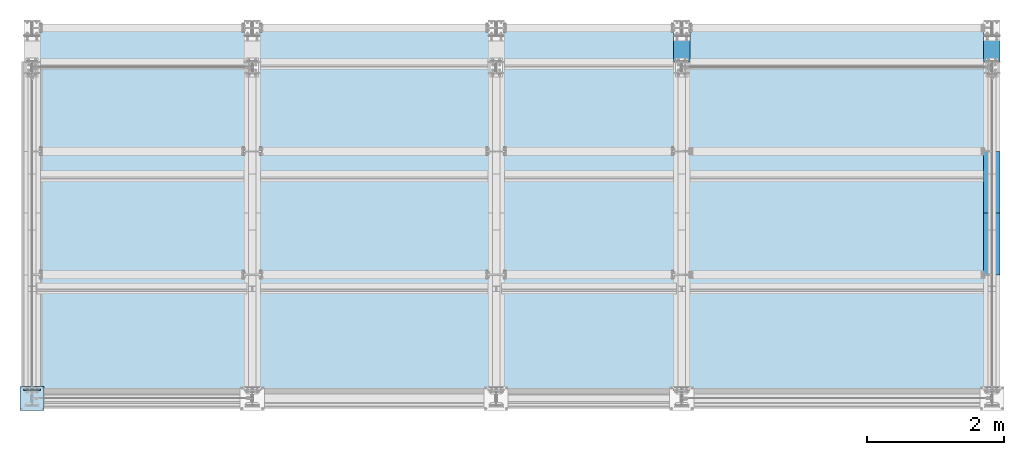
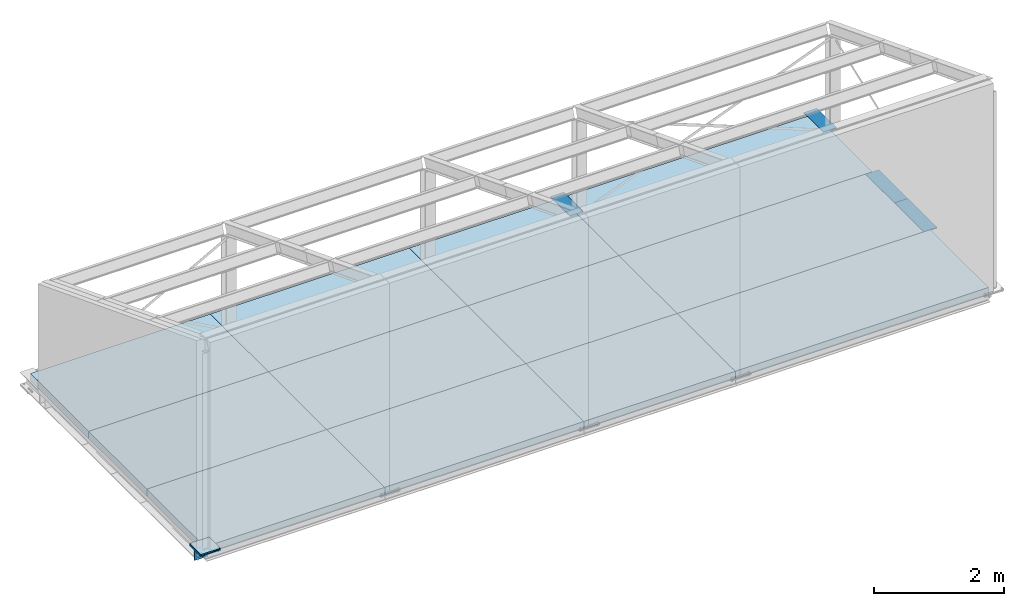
# One storey, part 3 of 66: 12 slabs, 4 beams, 3 plates.
"""IFC4 building model written with IfcOpenShell, lengths in metres."""

import ifcopenshell
import ifcopenshell.guid

model = None  # the IFC model being written
_history = None  # IfcOwnerHistory: only IFC2X3 demands one
_inside = {}  # id of a spatial element -> (the spatial element, [elements in it])
_under = {}  # id of a project, library or spatial element -> (it, [spatial elements below it])
_declared = {}  # id of a project -> (the project, [libraries it declares])
_typed = {}  # id of a type object -> (the type object, [elements of that type])
_made_of = {}  # id of a material, layer set ... -> (it, [elements and type objects made of it])


def new_model(schema):
    """Start an empty IFC model of exactly this schema.

    Asked for "IFC4X3", IfcOpenShell would pick the latest addendum, in which some entities
    have other attributes; the version numbers below select the first issue.
    IFC2X3 requires an IfcOwnerHistory on every rooted entity: one is made here for all.
    """
    global model, _history
    if schema == "IFC4X3":
        model = ifcopenshell.file(schema_version=(4, 3, 0, 0))
    else:
        model = ifcopenshell.file(schema=schema)
    _inside.clear()
    _under.clear()
    _declared.clear()
    _typed.clear()
    _made_of.clear()
    _history = None
    if model.schema == "IFC2X3":
        org = make("IfcOrganization", Name="unknown")
        user = make(
            "IfcPersonAndOrganization",
            ThePerson=make("IfcPerson", FamilyName="unknown"),
            TheOrganization=org,
        )
        app = make(
            "IfcApplication",
            ApplicationDeveloper=org,
            Version="unknown",
            ApplicationFullName="unknown",
            ApplicationIdentifier="unknown",
        )
        _history = make(
            "IfcOwnerHistory",
            OwningUser=user,
            OwningApplication=app,
            ChangeAction="ADDED",
            CreationDate=0,
        )
    return model


def make(cls, **values):
    """One entity of the class cls with the attributes given. An attribute that is None is left unset."""
    return model.create_entity(
        cls, **{name: value for name, value in values.items() if value is not None}
    )


def rooted(cls, **values):
    """An entity with a GlobalId (a new one), such as an element, a storey or a relation."""
    return make(cls, GlobalId=ifcopenshell.guid.new(), OwnerHistory=_history, **values)


def si_unit(unit_type, name, prefix=None):
    """IfcSIUnit, for example si_unit("LENGTHUNIT", "METRE", prefix="MILLI")."""
    return make("IfcSIUnit", UnitType=unit_type, Prefix=prefix, Name=name)


def assignment(units):
    """IfcUnitAssignment: the units of a project."""
    return None if units is None else make("IfcUnitAssignment", Units=units)


def point(xyz):
    """IfcCartesianPoint."""
    return None if xyz is None else make("IfcCartesianPoint", Coordinates=xyz)


def direction(xyz):
    """IfcDirection."""
    return None if xyz is None else make("IfcDirection", DirectionRatios=xyz)


def frame(location, z_axis=None, x_axis=None):
    """IfcAxis2Placement3D, a coordinate frame: its origin and axes. An axis left out is left unset."""
    return make(
        "IfcAxis2Placement3D",
        Location=point(location),
        Axis=direction(z_axis),
        RefDirection=direction(x_axis),
    )


def frame_2d(location, x_axis=None):
    """IfcAxis2Placement2D, a coordinate frame in the plane: its origin and x axis."""
    return make(
        "IfcAxis2Placement2D", Location=point(location), RefDirection=direction(x_axis)
    )


def origin_with_axes():
    """The frame at (0, 0, 0) with the z axis (0, 0, 1) and the x axis (1, 0, 0) written out."""
    return frame((0.0, 0.0, 0.0), z_axis=(0.0, 0.0, 1.0), x_axis=(1.0, 0.0, 0.0))


def origin_2d_with_axis():
    """The frame at (0, 0) in the plane with the x axis (1, 0) written out."""
    return frame_2d((0.0, 0.0), x_axis=(1.0, 0.0))


def place(relative_to, where):
    """IfcLocalPlacement: puts the frame where relative to a parent placement (None: the world)."""
    return make(
        "IfcLocalPlacement", PlacementRelTo=relative_to, RelativePlacement=where
    )


def context(
    kind, dimensions, precision=None, world=None, true_north=None, identifier=None
):
    """IfcGeometricRepresentationContext, for example the 3D "Model" context."""
    return make(
        "IfcGeometricRepresentationContext",
        ContextIdentifier=identifier,
        ContextType=kind,
        CoordinateSpaceDimension=dimensions,
        Precision=precision,
        WorldCoordinateSystem=world,
        TrueNorth=true_north,
    )


def project(units=None, contexts=None):
    """IfcProject with its units and contexts."""
    return rooted(
        "IfcProject",
        Name="project",
        RepresentationContexts=contexts,
        UnitsInContext=assignment(units),
    )


def spatial(cls, under=None, at=None, **own):
    """A site, building, storey or space (cls), placed at a placement, below another one or the project."""
    s = rooted(cls, ObjectPlacement=at, **own)
    if under is not None:
        _under.setdefault(under.id(), (under, []))[1].append(s)
    return s


def polyline(points):
    """IfcPolyline through the points."""
    return make("IfcPolyline", Points=[point(p) for p in points])


def profile(cls, at=None, kind="AREA", **sizes):
    """A parametric profile (cls). Its sizes go by their IFC names, for example OverallWidth=200.0."""
    return make(cls, ProfileType=kind, Position=at, **sizes)


def i_section(**sizes):
    """IfcIShapeProfileDef."""
    return profile("IfcIShapeProfileDef", **sizes)


def outline(outer, holes=None, kind="AREA"):
    """IfcArbitraryClosedProfileDef: a profile drawn as a closed curve; with holes, ...WithVoids."""
    if holes is None:
        return make("IfcArbitraryClosedProfileDef", ProfileType=kind, OuterCurve=outer)
    return make(
        "IfcArbitraryProfileDefWithVoids",
        ProfileType=kind,
        OuterCurve=outer,
        InnerCurves=holes,
    )


def extrude(swept, where, along, depth):
    """IfcExtrudedAreaSolid: the profile swept, set in the frame where, extruded along a direction by depth."""
    return make(
        "IfcExtrudedAreaSolid",
        SweptArea=swept,
        Position=where,
        ExtrudedDirection=direction(along),
        Depth=depth,
    )


def shape(context_of_items, identifier, shape_type, items):
    """IfcShapeRepresentation: the items that make up one representation, for example the "Body"."""
    return make(
        "IfcShapeRepresentation",
        ContextOfItems=context_of_items,
        RepresentationIdentifier=identifier,
        RepresentationType=shape_type,
        Items=items,
    )


def material(Name=None, Category=None):
    """IfcMaterial."""
    return make("IfcMaterial", Name=Name, Category=Category)


def material_profile(
    of_material, cross_section, Name=None, Category=None, Priority=None
):
    """IfcMaterialProfile: a cross section and its material."""
    return make(
        "IfcMaterialProfile",
        Name=Name,
        Material=of_material,
        Profile=cross_section,
        Priority=Priority,
        Category=Category,
    )


def profile_set(profiles, Name=None, composite=None):
    """IfcMaterialProfileSet."""
    return make(
        "IfcMaterialProfileSet",
        Name=Name,
        MaterialProfiles=profiles,
        CompositeProfile=composite,
    )


def profile_usage(for_profile_set, cardinal=None, extent=None):
    """IfcMaterialProfileSetUsage: how a profile set lies along its element."""
    return make(
        "IfcMaterialProfileSetUsage",
        ForProfileSet=for_profile_set,
        CardinalPoint=cardinal,
        ReferenceExtent=extent,
    )


def made_of(thing, what):
    """Note that an element or type object is made of a material, layer set ...; save() writes the relation."""
    if what is not None:
        _made_of.setdefault(what.id(), (what, []))[1].append(thing)
    return thing


def type_object(cls, material=None, **own):
    """A type object (cls), such as IfcWallType, which elements share."""
    return made_of(rooted(cls, **own), material)


def element(
    cls,
    number,
    at=None,
    inside=None,
    cuts=None,
    type_object=None,
    material=None,
    context=None,
    identifier="Body",
    shape_type=None,
    held_by="IfcProductDefinitionShape",
    body=None,
    shapes=None,
    **own,
):
    """One element of the class cls, such as IfcWall. Its Tag is "e" and its number.

    at: its placement. inside: the storey or other place that contains it. cuts: it is an
    opening in that element (IfcRelVoidsElement). A single representation is given by context,
    identifier, shape_type and body (its items); several are given by shapes. held_by: the class
    of the entity that holds the representations. save() writes the other relations.
    """
    e = rooted(cls, Tag="e%d" % number, ObjectPlacement=at, **own)
    if body is not None:
        shapes = [shape(context, identifier, shape_type, body)]
    if shapes is not None:
        e.Representation = make(held_by, Representations=shapes)
    if inside is not None:
        _inside.setdefault(inside.id(), (inside, []))[1].append(e)
    if cuts is not None:
        rooted(
            "IfcRelVoidsElement", RelatingBuildingElement=cuts, RelatedOpeningElement=e
        )
    if type_object is not None:
        _typed.setdefault(type_object.id(), (type_object, []))[1].append(e)
    return made_of(e, material)


def aggregate(whole, parts):
    """IfcRelAggregates: a whole, such as a stair, and the parts it consists of."""
    return rooted("IfcRelAggregates", RelatingObject=whole, RelatedObjects=parts)


def save(model, path):
    """Write the relations noted so far, then the file.

    IfcRelAggregates (storeys below a building ...), IfcRelContainedInSpatialStructure (elements
    in a storey), IfcRelDefinesByType, IfcRelAssociatesMaterial and IfcRelDeclares: one each for
    every whole, place, type object, material and project.
    """
    for whole, parts in _under.values():
        aggregate(whole, parts)
    for where, things in _inside.values():
        rooted(
            "IfcRelContainedInSpatialStructure",
            RelatedElements=things,
            RelatingStructure=where,
        )
    for kind, things in _typed.values():
        rooted("IfcRelDefinesByType", RelatedObjects=things, RelatingType=kind)
    for what, things in _made_of.values():
        rooted("IfcRelAssociatesMaterial", RelatedObjects=things, RelatingMaterial=what)
    for by, libraries in _declared.values():
        rooted("IfcRelDeclares", RelatingContext=by, RelatedDefinitions=libraries)
    model.write(path)


model = new_model("IFC4")

# Units and contexts
model_context = context("Model", 3, precision=1e-05, world=origin_with_axes())
ifc_project = project(units=[si_unit("LENGTHUNIT", "METRE"), si_unit("AREAUNIT", "SQUARE_METRE"), si_unit("VOLUMEUNIT", "CUBIC_METRE"), si_unit("MASSUNIT", "GRAM", prefix="KILO"), si_unit("TIMEUNIT", "SECOND"), si_unit("PLANEANGLEUNIT", "RADIAN"), si_unit("SOLIDANGLEUNIT", "STERADIAN"), si_unit("THERMODYNAMICTEMPERATUREUNIT", "DEGREE_CELSIUS")], contexts=[model_context])

# Site, building, storey
placement_1 = place(None, origin_with_axes())
site = spatial("IfcSite", under=ifc_project, at=placement_1, Name="Italia", CompositionType="ELEMENT")
building = spatial("IfcBuilding", under=site, at=placement_1, Name="Uffici", CompositionType="ELEMENT")
storey_placement = place(None, frame((0.0, 0.0, 3.299999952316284), z_axis=(0.0, 0.0, 1.0), x_axis=(1.0, 0.0, 0.0)))
storey = spatial("IfcBuildingStorey", under=building, at=storey_placement, Name="Storey 1", CompositionType="ELEMENT", Elevation=3.299999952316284)

# Beams
ifc_material_1 = material(Name="Acciaio", Category="Acciaio")
ifc_material_profile = material_profile(ifc_material_1, i_section(OverallWidth=0.24, OverallDepth=0.23, WebThickness=0.0075, FlangeThickness=0.012, FilletRadius=0.021, at=frame_2d((0.0, 0.0), x_axis=(0.0, -0.999999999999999))), Name="1 HEA240")
ifc_profile_set = profile_set([ifc_material_profile])
ifc_profile_usage_1 = profile_usage(ifc_profile_set, cardinal=2)
beam_type_1 = type_object("IfcBeamType", Name="2 HEB240", PredefinedType="BEAM", material=ifc_profile_usage_1)
placement_2 = place(placement_1, origin_with_axes())
beam_1_placement = place(placement_2, origin_with_axes())
element("IfcBeam", 1, at=beam_1_placement, inside=storey, type_object=beam_type_1, Name="112", context=model_context, shape_type="SweptSolid", body=[
    extrude(i_section(OverallWidth=0.24, OverallDepth=0.24, WebThickness=0.01, FlangeThickness=0.017, FilletRadius=0.021, at=origin_2d_with_axis()), frame((13.97, 4.9, 3.18), z_axis=(0.0, 1.0, 0.0), x_axis=(-1.0, 0.0, 0.0)), (0.0, 0.0, 1.0), 0.605),
])
ifc_profile_usage_2 = profile_usage(ifc_profile_set, cardinal=2)
beam_type_2 = type_object("IfcBeamType", Name="2 HEB240", PredefinedType="BEAM", material=ifc_profile_usage_2)
beam_2_placement = place(placement_2, origin_with_axes())
element("IfcBeam", 2, at=beam_2_placement, inside=storey, type_object=beam_type_2, Name="111", context=model_context, shape_type="SweptSolid", body=[
    extrude(i_section(OverallWidth=0.24, OverallDepth=0.24, WebThickness=0.01, FlangeThickness=0.017, FilletRadius=0.021, at=origin_2d_with_axis()), frame((9.455, 4.9, 3.18), z_axis=(0.0, 1.0, 0.0), x_axis=(-1.0, 0.0, 0.0)), (0.0, 0.0, 1.0), 0.605),
])
ifc_profile_usage_3 = profile_usage(ifc_profile_set, cardinal=2)
beam_type_3 = type_object("IfcBeamType", Name="2 HEB240", PredefinedType="BEAM", material=ifc_profile_usage_3)
beam_3_placement = place(placement_2, origin_with_axes())
element("IfcBeam", 3, at=beam_3_placement, inside=storey, type_object=beam_type_3, Name="112", context=model_context, shape_type="SweptSolid", body=[
    extrude(i_section(OverallWidth=0.24, OverallDepth=0.24, WebThickness=0.01, FlangeThickness=0.017, FilletRadius=0.021, at=origin_2d_with_axis()), frame((13.97, 2.695, 3.18), z_axis=(0.0, 1.0, 0.0), x_axis=(-1.0, 0.0, 0.0)), (0.0, 0.0, 1.0), 0.898333),
])
ifc_profile_usage_4 = profile_usage(ifc_profile_set, cardinal=2)
beam_type_4 = type_object("IfcBeamType", Name="2 HEB240", PredefinedType="BEAM", material=ifc_profile_usage_4)
beam_4_placement = place(placement_2, origin_with_axes())
element("IfcBeam", 4, at=beam_4_placement, inside=storey, type_object=beam_type_4, Name="112", context=model_context, shape_type="SweptSolid", body=[
    extrude(i_section(OverallWidth=0.24, OverallDepth=0.24, WebThickness=0.01, FlangeThickness=0.017, FilletRadius=0.021, at=origin_2d_with_axis()), frame((13.97, 1.79667, 3.18), z_axis=(0.0, 1.0, 0.0), x_axis=(-1.0, 0.0, 0.0)), (0.0, 0.0, 1.0), 0.898333),
])

# Plates
plate_type_1 = type_object("IfcPlateType", Name="Collegamenti 0101_-001 0102_-002 0103_-003 0104_-004", PredefinedType="SHEET")
plate_1_placement = place(placement_2, origin_with_axes())
element("IfcPlate", 5, at=plate_1_placement, inside=storey, type_object=plate_type_1, Name="Collegamenti 0101_-001 0102_-002 0103_-003 0104_-004", context=model_context, shape_type="SweptSolid", body=[
    extrude(outline(polyline([(0.0, 0.0), (-0.24, 0.0), (-0.24, 0.287), (0.0, 0.287), (0.0, 0.0)])), frame((0.12, 0.13, 3.013), z_axis=(0.0, -1.0, 0.0), x_axis=(1.0, 0.0, 0.0)), (0.0, 0.0, 1.0), 0.015),
])
plate_type_2 = type_object("IfcPlateType", Name="Collegamenti 0101_0201 0102_0202 0103_0203 0104_0204 0105_0205", PredefinedType="SHEET")
plate_2_placement = place(placement_2, origin_with_axes())
element("IfcPlate", 6, at=plate_2_placement, inside=storey, type_object=plate_type_2, Name="Collegamenti 0101_0201 0102_0202 0103_0203 0104_0204 0105_0205", context=model_context, shape_type="SweptSolid", body=[
    extrude(outline(polyline([(0.0, 0.0), (0.0, 0.35), (0.349, 0.35), (0.349, 0.0), (0.0, 0.0)])), frame((-0.175, -0.1745, 3.32), z_axis=(0.0, 0.0, -1.0), x_axis=(0.0, 1.0, 0.0)), (0.0, 0.0, 1.0), 0.02),
])
plate_type_3 = type_object("IfcPlateType", Name="Collegamenti 0101_0201 0102_0202 0103_0203 0104_0204 0105_0205", PredefinedType="SHEET")
plate_3_placement = place(placement_2, origin_with_axes())
element("IfcPlate", 7, at=plate_3_placement, inside=storey, type_object=plate_type_3, Name="Collegamenti 0101_0201 0102_0202 0103_0203 0104_0204 0105_0205", context=model_context, shape_type="SweptSolid", body=[
    extrude(outline(polyline([(0.0, 0.0), (0.0, 0.35), (0.349, 0.35), (0.349, 0.0), (0.0, 0.0)])), frame((-0.175, -0.1745, 3.3), z_axis=(0.0, 0.0, -1.0), x_axis=(0.0, 1.0, 0.0)), (0.0, 0.0, 1.0), 0.02),
])

# Slabs
ifc_material_2 = material(Name="Steel", Category="Steel")
slab_type_1 = type_object("IfcSlabType", Name="2 SOLAIO INTERMEDIO", PredefinedType="FLOOR", material=ifc_material_2)
slab_1_placement = place(placement_2, origin_with_axes())
element("IfcSlab", 8, at=slab_1_placement, inside=storey, type_object=slab_type_1, Name="100", context=model_context, shape_type="SweptSolid", body=[
    extrude(outline(polyline([(0.0, 0.0), (0.0, -4.515), (0.898333, -4.515), (1.79667, -4.515), (1.79667, 0.0), (0.898333, 0.0), (0.0, 0.0)])), frame((13.97, 1.79667, 3.3), z_axis=(0.0, 0.0, -1.0), x_axis=(0.0, 1.0, 0.0)), (0.0, 0.0, 1.0), 0.14),
])
ifc_material_3 = material(Name="Steel", Category="Steel")
slab_type_2 = type_object("IfcSlabType", Name="2 SOLAIO INTERMEDIO", PredefinedType="FLOOR", material=ifc_material_3)
slab_2_placement = place(placement_2, origin_with_axes())
element("IfcSlab", 9, at=slab_2_placement, inside=storey, type_object=slab_type_2, Name="101", context=model_context, shape_type="SweptSolid", body=[
    extrude(outline(polyline([(0.0, 0.0), (0.0, -4.515), (1.79667, -4.515), (1.79667, 0.0), (0.0, 0.0)])), frame((13.97, 0.0, 3.3), z_axis=(0.0, 0.0, -1.0), x_axis=(0.0, 1.0, 0.0)), (0.0, 0.0, 1.0), 0.14),
])
ifc_material_4 = material(Name="Steel", Category="Steel")
slab_type_3 = type_object("IfcSlabType", Name="2 SOLAIO INTERMEDIO", PredefinedType="FLOOR", material=ifc_material_4)
slab_3_placement = place(placement_2, origin_with_axes())
element("IfcSlab", 10, at=slab_3_placement, inside=storey, type_object=slab_type_3, Name="102", context=model_context, shape_type="SweptSolid", body=[
    extrude(outline(polyline([(0.0, 0.0), (0.0, -4.515), (1.30667, -4.515), (1.79667, -4.515), (1.79667, 0.0), (1.30667, 0.0), (0.0, 0.0)])), frame((13.97, 3.59333, 3.3), z_axis=(0.0, 0.0, -1.0), x_axis=(0.0, 1.0, 0.0)), (0.0, 0.0, 1.0), 0.14),
])
ifc_material_5 = material(Name="Steel", Category="Steel")
slab_type_4 = type_object("IfcSlabType", Name="2 SOLAIO INTERMEDIO", PredefinedType="FLOOR", material=ifc_material_5)
slab_4_placement = place(placement_2, origin_with_axes())
element("IfcSlab", 11, at=slab_4_placement, inside=storey, type_object=slab_type_4, Name="103", context=model_context, shape_type="SweptSolid", body=[
    extrude(outline(polyline([(0.0, 0.0), (0.0, -2.7), (1.30667, -2.7), (1.79667, -2.7), (1.79667, 0.0), (1.30667, 0.0), (0.0, 0.0)])), frame((9.455, 3.59333, 3.3), z_axis=(0.0, 0.0, -1.0), x_axis=(0.0, 1.0, 0.0)), (0.0, 0.0, 1.0), 0.14),
])
ifc_material_6 = material(Name="Steel", Category="Steel")
slab_type_5 = type_object("IfcSlabType", Name="2 SOLAIO INTERMEDIO", PredefinedType="FLOOR", material=ifc_material_6)
slab_5_placement = place(placement_2, origin_with_axes())
element("IfcSlab", 12, at=slab_5_placement, inside=storey, type_object=slab_type_5, Name="104", context=model_context, shape_type="SweptSolid", body=[
    extrude(outline(polyline([(0.0, 0.0), (0.0, -2.7), (0.898333, -2.7), (1.79667, -2.7), (1.79667, 0.0), (0.898333, 0.0), (0.0, 0.0)])), frame((9.455, 1.79667, 3.3), z_axis=(0.0, 0.0, -1.0), x_axis=(0.0, 1.0, 0.0)), (0.0, 0.0, 1.0), 0.14),
])
ifc_material_7 = material(Name="Steel", Category="Steel")
slab_type_6 = type_object("IfcSlabType", Name="2 SOLAIO INTERMEDIO", PredefinedType="FLOOR", material=ifc_material_7)
slab_6_placement = place(placement_2, origin_with_axes())
element("IfcSlab", 13, at=slab_6_placement, inside=storey, type_object=slab_type_6, Name="105", context=model_context, shape_type="SweptSolid", body=[
    extrude(outline(polyline([(0.0, 0.0), (0.0, -2.7), (1.79667, -2.7), (1.79667, 0.0), (0.0, 0.0)])), frame((9.455, 0.0, 3.3), z_axis=(0.0, 0.0, -1.0), x_axis=(0.0, 1.0, 0.0)), (0.0, 0.0, 1.0), 0.14),
])
ifc_material_8 = material(Name="Steel", Category="Steel")
slab_type_7 = type_object("IfcSlabType", Name="2 SOLAIO INTERMEDIO", PredefinedType="FLOOR", material=ifc_material_8)
slab_7_placement = place(placement_2, origin_with_axes())
element("IfcSlab", 14, at=slab_7_placement, inside=storey, type_object=slab_type_7, Name="106", context=model_context, shape_type="SweptSolid", body=[
    extrude(outline(polyline([(0.0, 0.0), (0.0, -3.55), (1.79667, -3.55), (1.79667, 0.0), (0.0, 0.0)])), frame((6.755, 0.0, 3.3), z_axis=(0.0, 0.0, -1.0), x_axis=(0.0, 1.0, 0.0)), (0.0, 0.0, 1.0), 0.14),
])
ifc_material_9 = material(Name="Steel", Category="Steel")
slab_type_8 = type_object("IfcSlabType", Name="2 SOLAIO INTERMEDIO", PredefinedType="FLOOR", material=ifc_material_9)
slab_8_placement = place(placement_2, origin_with_axes())
element("IfcSlab", 15, at=slab_8_placement, inside=storey, type_object=slab_type_8, Name="107", context=model_context, shape_type="SweptSolid", body=[
    extrude(outline(polyline([(0.0, 0.0), (0.0, -3.55), (0.898333, -3.55), (1.79667, -3.55), (1.79667, 0.0), (0.898333, 0.0), (0.0, 0.0)])), frame((6.755, 1.79667, 3.3), z_axis=(0.0, 0.0, -1.0), x_axis=(0.0, 1.0, 0.0)), (0.0, 0.0, 1.0), 0.14),
])
ifc_material_10 = material(Name="Steel", Category="Steel")
slab_type_9 = type_object("IfcSlabType", Name="2 SOLAIO INTERMEDIO", PredefinedType="FLOOR", material=ifc_material_10)
slab_9_placement = place(placement_2, origin_with_axes())
element("IfcSlab", 16, at=slab_9_placement, inside=storey, type_object=slab_type_9, Name="108", context=model_context, shape_type="SweptSolid", body=[
    extrude(outline(polyline([(0.0, 0.0), (0.0, -3.55), (1.30667, -3.55), (1.79667, -3.55), (1.79667, 0.0), (1.30667, 0.0), (0.0, 0.0)])), frame((6.755, 3.59333, 3.3), z_axis=(0.0, 0.0, -1.0), x_axis=(0.0, 1.0, 0.0)), (0.0, 0.0, 1.0), 0.14),
])
ifc_material_11 = material(Name="Steel", Category="Steel")
slab_type_10 = type_object("IfcSlabType", Name="2 SOLAIO INTERMEDIO", PredefinedType="FLOOR", material=ifc_material_11)
slab_10_placement = place(placement_2, origin_with_axes())
element("IfcSlab", 17, at=slab_10_placement, inside=storey, type_object=slab_type_10, Name="109", context=model_context, shape_type="SweptSolid", body=[
    extrude(outline(polyline([(0.0, 0.0), (0.0, -3.205), (1.30667, -3.205), (1.79667, -3.205), (1.79667, 0.0), (1.30667, 0.0), (0.0, 0.0)])), frame((3.205, 3.59333, 3.3), z_axis=(0.0, 0.0, -1.0), x_axis=(0.0, 1.0, 0.0)), (0.0, 0.0, 1.0), 0.14),
])
ifc_material_12 = material(Name="Steel", Category="Steel")
slab_type_11 = type_object("IfcSlabType", Name="2 SOLAIO INTERMEDIO", PredefinedType="FLOOR", material=ifc_material_12)
slab_11_placement = place(placement_2, origin_with_axes())
element("IfcSlab", 18, at=slab_11_placement, inside=storey, type_object=slab_type_11, Name="110", context=model_context, shape_type="SweptSolid", body=[
    extrude(outline(polyline([(0.0, 0.0), (0.0, -3.205), (0.898333, -3.205), (1.79667, -3.205), (1.79667, 0.0), (0.898333, 0.0), (0.0, 0.0)])), frame((3.205, 1.79667, 3.3), z_axis=(0.0, 0.0, -1.0), x_axis=(0.0, 1.0, 0.0)), (0.0, 0.0, 1.0), 0.14),
])
ifc_material_13 = material(Name="Steel", Category="Steel")
slab_type_12 = type_object("IfcSlabType", Name="2 SOLAIO INTERMEDIO", PredefinedType="FLOOR", material=ifc_material_13)
slab_12_placement = place(placement_2, origin_with_axes())
element("IfcSlab", 19, at=slab_12_placement, inside=storey, type_object=slab_type_12, Name="111", context=model_context, shape_type="SweptSolid", body=[
    extrude(outline(polyline([(0.0, 0.0), (0.0, -3.205), (1.79667, -3.205), (1.79667, 0.0), (0.0, 0.0)])), frame((3.205, 0.0, 3.3), z_axis=(0.0, 0.0, -1.0), x_axis=(0.0, 1.0, 0.0)), (0.0, 0.0, 1.0), 0.14),
])

save(model, "model.ifc")
